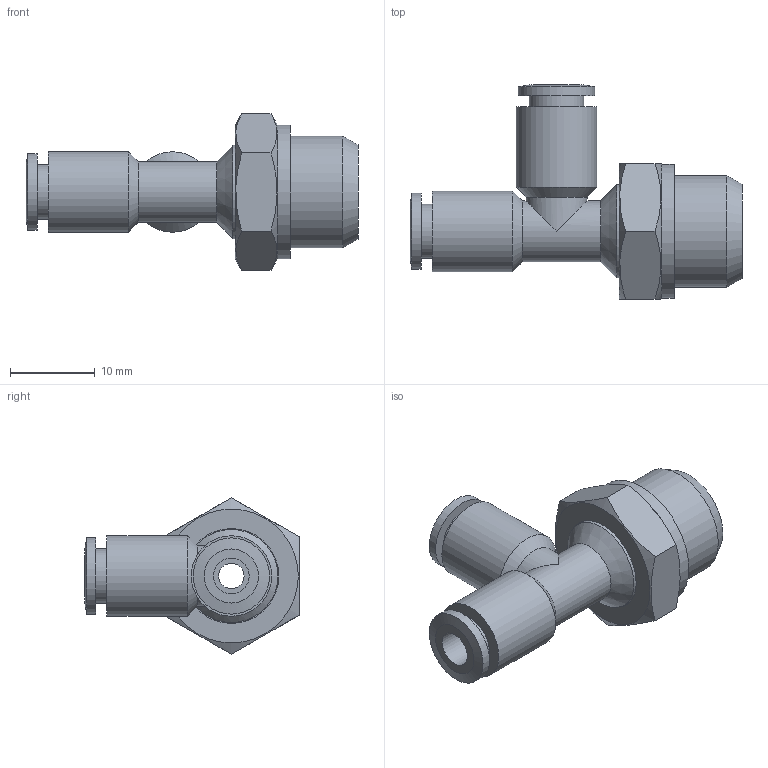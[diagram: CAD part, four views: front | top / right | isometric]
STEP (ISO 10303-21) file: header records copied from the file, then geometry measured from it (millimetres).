
FILE_DESCRIPTION((''),'2;1');
FILE_NAME('C:\Documents and Settings\rivolro1\Documenti\copia di Raccordi\PLASTICA\T21XXXX\T210414.stp','2007-11-02T08:39:10',('Rivolro1'),(''),'Autodesk Inventor 2008','Autodesk Inventor 2008','');
FILE_SCHEMA(('AUTOMOTIVE_DESIGN { 1 0 10303 214 1 1 1 1 }'));
Length unit declared in the file: millimetre
Products named in the file (1): T210414
Bounding box: 39.2 x 25.3 x 18.48 mm (x, y, z)
Volume: 4183.7 mm3; surface area: 3015.9 mm2
Topology: 1 solids, 1 shells, 43 faces, 86 edges, 56 vertices
Faces by surface type: plane 16, cylinder 13, cone 8, bspline 6
Full cylindrical faces by diameter (mm): 6.4 x2, 7.2 x2, 9 x2, 9.5 x2, 11 x1, 11.2 x1, 13.2 x1, 15.8 x1
Entity records: 1133 total; most frequent: CARTESIAN_POINT 302, DIRECTION 154, ORIENTED_EDGE 112, EDGE_LOOP 80, AXIS2_PLACEMENT_3D 74, EDGE_CURVE 56, VERTEX_POINT 50, FACE_OUTER_BOUND 43
